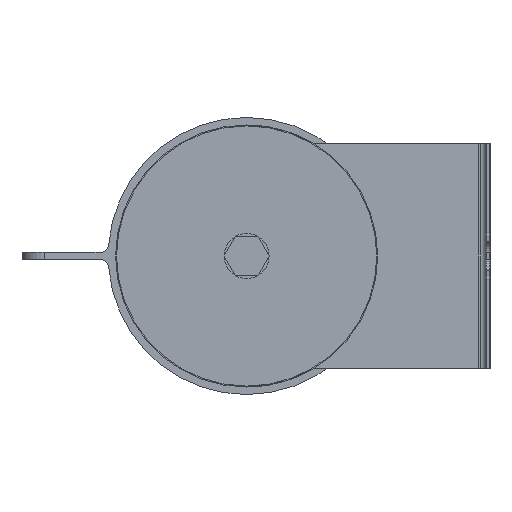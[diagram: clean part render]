
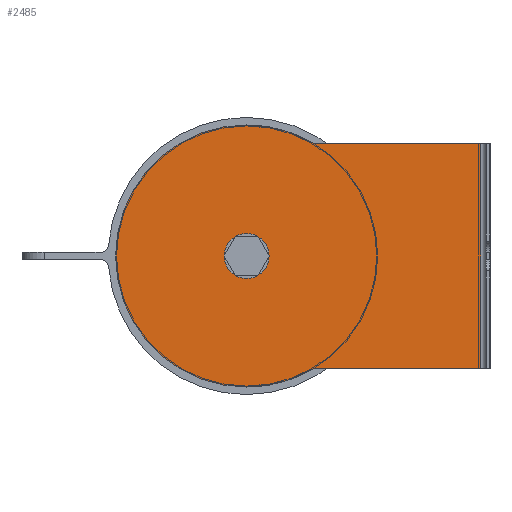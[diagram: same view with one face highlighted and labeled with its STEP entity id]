
A CAD part, left-side view. The second image highlights one B-rep face of the part: STEP entity #2485.
In plain terms, the highlighted planar face has unit normal (-1, 0, 0).
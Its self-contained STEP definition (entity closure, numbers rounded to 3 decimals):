
#41 = AXIS2_PLACEMENT_3D ( 'NONE', #2885, #2672, #3128 ) ;
#130 = LINE ( 'NONE', #1655, #709 ) ;
#193 = CARTESIAN_POINT ( 'NONE',  ( -601.5, 0., 6. ) ) ;
#232 = DIRECTION ( 'NONE',  ( 0., 0., 1. ) ) ;
#252 = CARTESIAN_POINT ( 'NONE',  ( -601.5, 0., -30. ) ) ;
#259 = CARTESIAN_POINT ( 'NONE',  ( -601.5, 0., -6. ) ) ;
#320 = FACE_OUTER_BOUND ( 'NONE', #3004, .T. ) ;
#346 = AXIS2_PLACEMENT_3D ( 'NONE', #2094, #1589, #598 ) ;
#362 = DIRECTION ( 'NONE',  ( -1., 0., 0. ) ) ;
#420 = VECTOR ( 'NONE', #1063, 1000. ) ;
#598 = DIRECTION ( 'NONE',  ( 0., 0., 1. ) ) ;
#602 = EDGE_CURVE ( 'NONE', #2359, #2004, #783, .T. ) ;
#640 = EDGE_CURVE ( 'NONE', #2983, #2810, #1359, .T. ) ;
#653 = CARTESIAN_POINT ( 'NONE',  ( -601.5, -18.028, -30. ) ) ;
#655 = CARTESIAN_POINT ( 'NONE',  ( -601.5, -62.5, -30. ) ) ;
#709 = VECTOR ( 'NONE', #1903, 1000. ) ;
#717 = AXIS2_PLACEMENT_3D ( 'NONE', #1626, #3092, #1115 ) ;
#758 = EDGE_LOOP ( 'NONE', ( #1731, #1530 ) ) ;
#760 = CIRCLE ( 'NONE', #875, 6. ) ;
#778 = AXIS2_PLACEMENT_3D ( 'NONE', #1862, #362, #3060 ) ;
#783 = LINE ( 'NONE', #847, #420 ) ;
#797 = AXIS2_PLACEMENT_3D ( 'NONE', #1217, #1452, #232 ) ;
#847 = CARTESIAN_POINT ( 'NONE',  ( -601.5, -62.5, 30. ) ) ;
#875 = AXIS2_PLACEMENT_3D ( 'NONE', #1346, #1592, #1820 ) ;
#943 = EDGE_CURVE ( 'NONE', #2031, #2359, #1852, .T. ) ;
#954 = ORIENTED_EDGE ( 'NONE', *, *, #943, .T. ) ;
#981 = FACE_BOUND ( 'NONE', #758, .T. ) ;
#992 = CARTESIAN_POINT ( 'NONE',  ( -601.5, -18.028, 30. ) ) ;
#997 = ORIENTED_EDGE ( 'NONE', *, *, #3009, .T. ) ;
#1063 = DIRECTION ( 'NONE',  ( 0., 0., 1. ) ) ;
#1115 = DIRECTION ( 'NONE',  ( 0., 0., 1. ) ) ;
#1127 = CARTESIAN_POINT ( 'NONE',  ( -601.5, 0., 35. ) ) ;
#1217 = CARTESIAN_POINT ( 'NONE',  ( -601.5, 0., 0. ) ) ;
#1259 = VECTOR ( 'NONE', #1717, 1000. ) ;
#1346 = CARTESIAN_POINT ( 'NONE',  ( -601.5, 0., 0. ) ) ;
#1359 = CIRCLE ( 'NONE', #346, 35. ) ;
#1452 = DIRECTION ( 'NONE',  ( -1., 0., 0. ) ) ;
#1530 = ORIENTED_EDGE ( 'NONE', *, *, #1578, .F. ) ;
#1578 = EDGE_CURVE ( 'NONE', #3074, #1892, #760, .T. ) ;
#1589 = DIRECTION ( 'NONE',  ( -1., 0., 0. ) ) ;
#1592 = DIRECTION ( 'NONE',  ( -1., 0., 0. ) ) ;
#1626 = CARTESIAN_POINT ( 'NONE',  ( -601.5, 0., 0. ) ) ;
#1655 = CARTESIAN_POINT ( 'NONE',  ( -601.5, 0., 30. ) ) ;
#1717 = DIRECTION ( 'NONE',  ( 0., -1., 0. ) ) ;
#1731 = ORIENTED_EDGE ( 'NONE', *, *, #2586, .F. ) ;
#1820 = DIRECTION ( 'NONE',  ( 0., 0., 1. ) ) ;
#1846 = ORIENTED_EDGE ( 'NONE', *, *, #602, .T. ) ;
#1852 = LINE ( 'NONE', #252, #1259 ) ;
#1862 = CARTESIAN_POINT ( 'NONE',  ( -601.5, 0., 0. ) ) ;
#1892 = VERTEX_POINT ( 'NONE', #259 ) ;
#1903 = DIRECTION ( 'NONE',  ( 0., 1., 0. ) ) ;
#1914 = VERTEX_POINT ( 'NONE', #992 ) ;
#2004 = VERTEX_POINT ( 'NONE', #2908 ) ;
#2031 = VERTEX_POINT ( 'NONE', #653 ) ;
#2094 = CARTESIAN_POINT ( 'NONE',  ( -601.5, 0., 0. ) ) ;
#2112 = ORIENTED_EDGE ( 'NONE', *, *, #2360, .T. ) ;
#2238 = ORIENTED_EDGE ( 'NONE', *, *, #2915, .T. ) ;
#2359 = VERTEX_POINT ( 'NONE', #655 ) ;
#2360 = EDGE_CURVE ( 'NONE', #2810, #2031, #2417, .T. ) ;
#2417 = CIRCLE ( 'NONE', #41, 35. ) ;
#2437 = PLANE ( 'NONE',  #797 ) ;
#2442 = ORIENTED_EDGE ( 'NONE', *, *, #640, .T. ) ;
#2485 = ADVANCED_FACE ( 'NONE', ( #981, #320 ), #2437, .T. ) ;
#2586 = EDGE_CURVE ( 'NONE', #1892, #3074, #3070, .T. ) ;
#2672 = DIRECTION ( 'NONE',  ( -1., 0., 0. ) ) ;
#2810 = VERTEX_POINT ( 'NONE', #2953 ) ;
#2885 = CARTESIAN_POINT ( 'NONE',  ( -601.5, 0., 0. ) ) ;
#2908 = CARTESIAN_POINT ( 'NONE',  ( -601.5, -62.5, 30. ) ) ;
#2911 = CIRCLE ( 'NONE', #717, 35. ) ;
#2915 = EDGE_CURVE ( 'NONE', #1914, #2983, #2911, .T. ) ;
#2953 = CARTESIAN_POINT ( 'NONE',  ( -601.5, 0., -35. ) ) ;
#2983 = VERTEX_POINT ( 'NONE', #1127 ) ;
#3004 = EDGE_LOOP ( 'NONE', ( #954, #1846, #997, #2238, #2442, #2112 ) ) ;
#3009 = EDGE_CURVE ( 'NONE', #2004, #1914, #130, .T. ) ;
#3060 = DIRECTION ( 'NONE',  ( 0., 0., 1. ) ) ;
#3070 = CIRCLE ( 'NONE', #778, 6. ) ;
#3074 = VERTEX_POINT ( 'NONE', #193 ) ;
#3092 = DIRECTION ( 'NONE',  ( -1., 0., 0. ) ) ;
#3128 = DIRECTION ( 'NONE',  ( 0., 0., 1. ) ) ;
